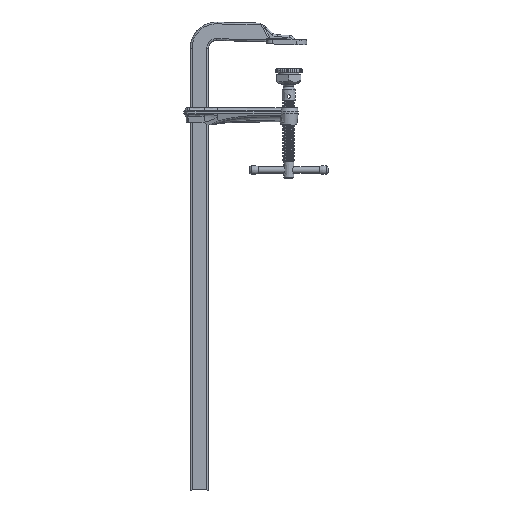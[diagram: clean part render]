
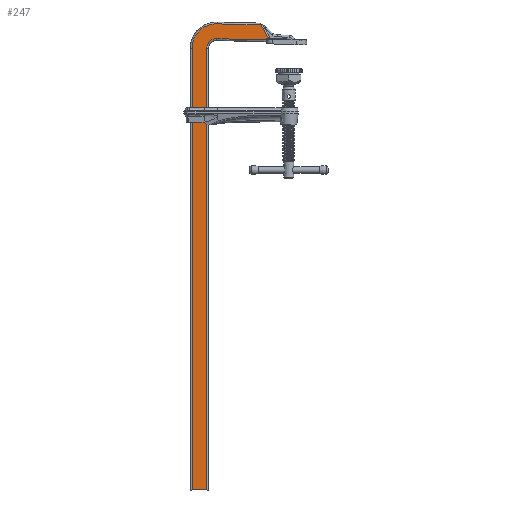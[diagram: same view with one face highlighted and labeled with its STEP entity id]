
A CAD part, front view. The second image highlights one B-rep face of the part: STEP entity #247.
In plain terms, the highlighted free-form (B-spline) face has degree [1, 1] with [2, 2] control points.
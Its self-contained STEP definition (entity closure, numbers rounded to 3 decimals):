
#51=CARTESIAN_POINT('',(25.085,5.375,-663.));
#52=VERTEX_POINT('',#51);
#53=CARTESIAN_POINT('',(2.815,5.375,-663.));
#54=VERTEX_POINT('',#53);
#55=CARTESIAN_POINT('',(25.085,5.375,-663.));
#56=CARTESIAN_POINT('',(23.179,5.375,-663.));
#57=CARTESIAN_POINT('',(13.95,5.375,-663.));
#58=CARTESIAN_POINT('',(4.721,5.375,-663.));
#59=CARTESIAN_POINT('',(2.815,5.375,-663.));
#60=B_SPLINE_CURVE_WITH_KNOTS('',1,(#55,#56,#57,#58,#59),.UNSPECIFIED.,.F.,.U.,(2,1,1,1,2),(0.,0.206,1.206,2.206,2.413),.UNSPECIFIED.);
#61=EDGE_CURVE('',#52,#54,#60,.T.);
#154=CARTESIAN_POINT('',(-474.221,5.375,107.54));
#155=CARTESIAN_POINT('',(-474.221,5.375,-733.158));
#156=CARTESIAN_POINT('',(366.477,5.375,107.54));
#157=CARTESIAN_POINT('',(366.477,5.375,-733.158));
#158=B_SPLINE_SURFACE_WITH_KNOTS('',1,1,((#154,#155),(#156,#157)),.PLANE_SURF.,.F.,.F.,.U.,(2,2),(2,2),(0.,1.),(0.,1.),.UNSPECIFIED.);
#159=CARTESIAN_POINT('',(-86.898,5.375,14.141));
#160=VERTEX_POINT('',#159);
#161=CARTESIAN_POINT('',(-87.924,5.375,15.114));
#162=VERTEX_POINT('',#161);
#163=CARTESIAN_POINT('',(-86.898,5.375,14.141));
#164=CARTESIAN_POINT('',(-86.904,5.375,14.391));
#165=CARTESIAN_POINT('',(-87.674,5.375,15.121));
#166=CARTESIAN_POINT('',(-87.924,5.375,15.114));
#167=B_SPLINE_CURVE_WITH_KNOTS('',2,(#163,#164,#165,#166),.UNSPECIFIED.,.F.,.U.,(3,1,3),(0.,0.5,1.),.UNSPECIFIED.);
#168=EDGE_CURVE('',#160,#162,#167,.T.);
#169=ORIENTED_EDGE('',*,*,#168,.T.);
#170=CARTESIAN_POINT('',(-90.058,5.375,15.059));
#171=VERTEX_POINT('',#170);
#172=CARTESIAN_POINT('',(-90.058,5.375,15.059));
#173=CARTESIAN_POINT('',(-87.924,5.375,15.114));
#174=B_SPLINE_CURVE_WITH_KNOTS('',1,(#172,#173),.POLYLINE_FORM.,.F.,.U.,(2,2),(0.083,0.826),.UNSPECIFIED.);
#175=EDGE_CURVE('',#171,#162,#174,.T.);
#176=ORIENTED_EDGE('',*,*,#175,.F.);
#177=CARTESIAN_POINT('',(-79.053,5.375,35.342));
#178=VERTEX_POINT('',#177);
#179=CARTESIAN_POINT('',(-79.053,5.375,35.342));
#180=CARTESIAN_POINT('',(-79.235,5.375,34.99));
#181=CARTESIAN_POINT('',(-79.578,5.375,34.36));
#182=CARTESIAN_POINT('',(-79.96,5.375,33.656));
#183=CARTESIAN_POINT('',(-80.532,5.375,32.603));
#184=CARTESIAN_POINT('',(-81.39,5.375,31.023));
#185=CARTESIAN_POINT('',(-82.676,5.375,28.654));
#186=CARTESIAN_POINT('',(-84.606,5.375,25.099));
#187=CARTESIAN_POINT('',(-87.378,5.375,19.995));
#188=CARTESIAN_POINT('',(-89.525,5.375,16.041));
#189=CARTESIAN_POINT('',(-90.058,5.375,15.059));
#190=B_SPLINE_CURVE_WITH_KNOTS('',2,(#179,#180,#181,#182,#183,#184,#185,#186,#187,#188,#189),.UNSPECIFIED.,.F.,.U.,(3,1,1,1,1,1,1,1,1,3),(0.,0.025,0.045,0.076,0.121,0.189,0.292,0.445,0.659,0.73),.UNSPECIFIED.);
#191=EDGE_CURVE('',#178,#171,#190,.T.);
#192=ORIENTED_EDGE('',*,*,#191,.F.);
#193=CARTESIAN_POINT('',(-12.971,5.375,37.072));
#194=VERTEX_POINT('',#193);
#195=CARTESIAN_POINT('',(-12.971,5.375,37.072));
#196=CARTESIAN_POINT('',(-79.053,5.375,35.342));
#197=B_SPLINE_CURVE_WITH_KNOTS('',1,(#195,#196),.POLYLINE_FORM.,.F.,.U.,(2,2),(0.,0.551),.UNSPECIFIED.);
#198=EDGE_CURVE('',#194,#178,#197,.T.);
#199=ORIENTED_EDGE('',*,*,#198,.F.);
#200=CARTESIAN_POINT('',(25.085,5.375,0.));
#201=VERTEX_POINT('',#200);
#202=CARTESIAN_POINT('',(-12.971,5.375,37.072));
#203=CARTESIAN_POINT('',(2.67,5.375,37.482));
#204=CARTESIAN_POINT('',(13.877,5.375,26.564));
#205=CARTESIAN_POINT('',(25.085,5.375,15.646));
#206=CARTESIAN_POINT('',(25.085,5.375,0.));
#207=(BOUNDED_CURVE()B_SPLINE_CURVE(2,(#202,#203,#204,#205,#206),.CIRCULAR_ARC.,.F.,.U.)B_SPLINE_CURVE_WITH_KNOTS((3,2,3),(0.,0.5,1.),.UNSPECIFIED.)CURVE()GEOMETRIC_REPRESENTATION_ITEM()RATIONAL_B_SPLINE_CURVE((1.,0.921,1.,0.921,1.))REPRESENTATION_ITEM(''));
#208=EDGE_CURVE('',#194,#201,#207,.T.);
#209=ORIENTED_EDGE('',*,*,#208,.T.);
#210=CARTESIAN_POINT('',(25.085,5.375,0.));
#211=CARTESIAN_POINT('',(25.085,5.375,-663.));
#212=B_SPLINE_CURVE_WITH_KNOTS('',1,(#210,#211),.POLYLINE_FORM.,.F.,.U.,(2,2),(0.,1.),.UNSPECIFIED.);
#213=EDGE_CURVE('',#201,#52,#212,.T.);
#214=ORIENTED_EDGE('',*,*,#213,.T.);
#215=ORIENTED_EDGE('',*,*,#61,.T.);
#216=CARTESIAN_POINT('',(2.815,5.375,0.));
#217=VERTEX_POINT('',#216);
#218=CARTESIAN_POINT('',(2.815,5.375,0.));
#219=CARTESIAN_POINT('',(2.815,5.375,-663.));
#220=B_SPLINE_CURVE_WITH_KNOTS('',1,(#218,#219),.POLYLINE_FORM.,.F.,.U.,(2,2),(0.,1.),.UNSPECIFIED.);
#221=EDGE_CURVE('',#217,#54,#220,.T.);
#222=ORIENTED_EDGE('',*,*,#221,.F.);
#223=CARTESIAN_POINT('',(-12.388,5.375,14.81));
#224=VERTEX_POINT('',#223);
#225=CARTESIAN_POINT('',(-12.388,5.375,14.81));
#226=CARTESIAN_POINT('',(-6.139,5.375,14.974));
#227=CARTESIAN_POINT('',(-1.662,5.375,10.612));
#228=CARTESIAN_POINT('',(2.815,5.375,6.251));
#229=CARTESIAN_POINT('',(2.815,5.375,0.));
#230=(BOUNDED_CURVE()B_SPLINE_CURVE(2,(#225,#226,#227,#228,#229),.UNSPECIFIED.,.F.,.U.)B_SPLINE_CURVE_WITH_KNOTS((3,2,3),(0.,0.5,1.),.UNSPECIFIED.)CURVE()GEOMETRIC_REPRESENTATION_ITEM()RATIONAL_B_SPLINE_CURVE((1.,0.921,1.,0.921,1.))REPRESENTATION_ITEM(''));
#231=EDGE_CURVE('',#224,#217,#230,.T.);
#232=ORIENTED_EDGE('',*,*,#231,.F.);
#233=CARTESIAN_POINT('',(-86.864,5.375,12.86));
#234=VERTEX_POINT('',#233);
#235=CARTESIAN_POINT('',(-12.388,5.375,14.81));
#236=CARTESIAN_POINT('',(-86.864,5.375,12.86));
#237=B_SPLINE_CURVE_WITH_KNOTS('',1,(#235,#236),.POLYLINE_FORM.,.F.,.U.,(2,2),(0.,0.621),.UNSPECIFIED.);
#238=EDGE_CURVE('',#224,#234,#237,.T.);
#239=ORIENTED_EDGE('',*,*,#238,.T.);
#240=CARTESIAN_POINT('',(-86.898,5.375,14.141));
#241=CARTESIAN_POINT('',(-86.864,5.375,12.86));
#242=B_SPLINE_CURVE_WITH_KNOTS('',1,(#240,#241),.POLYLINE_FORM.,.F.,.U.,(2,2),(0.952,1.),.UNSPECIFIED.);
#243=EDGE_CURVE('',#160,#234,#242,.T.);
#244=ORIENTED_EDGE('',*,*,#243,.F.);
#245=EDGE_LOOP('',(#169,#176,#192,#199,#209,#214,#215,#222,#232,#239,#244));
#246=FACE_OUTER_BOUND('',#245,.T.);
#247=ADVANCED_FACE('',(#246),#158,.T.);
